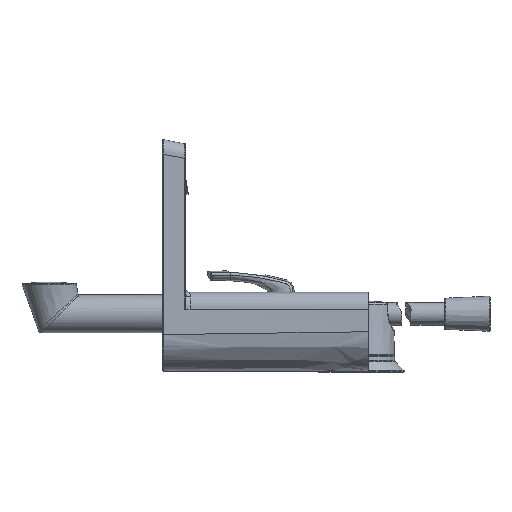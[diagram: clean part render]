
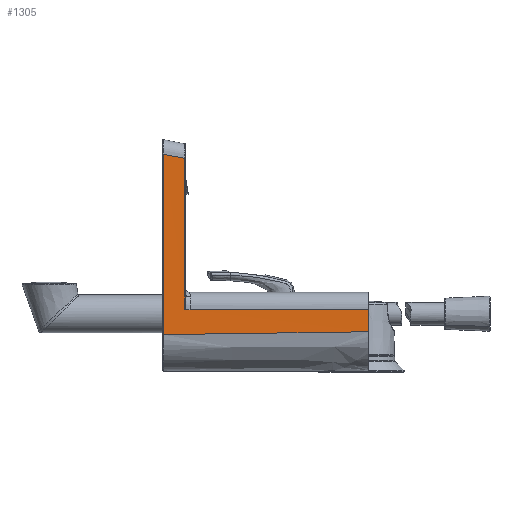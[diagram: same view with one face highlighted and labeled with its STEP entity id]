
A CAD part, left-side view. The second image highlights one B-rep face of the part: STEP entity #1305.
In plain terms, the highlighted free-form (B-spline) face has degree [3, 3] with [6, 6] control points.
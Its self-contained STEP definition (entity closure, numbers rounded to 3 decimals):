
#11 = CARTESIAN_POINT ( 'NONE',  ( -26.29, 15.111, 50.422 ) ) ;
#119 = CARTESIAN_POINT ( 'NONE',  ( -26.625, 0., 100. ) ) ;
#142 = ORIENTED_EDGE ( 'NONE', *, *, #27513, .T. ) ;
#563 = CARTESIAN_POINT ( 'NONE',  ( -26.625, 0., 0. ) ) ;
#1305 = ADVANCED_FACE ( 'NONE', ( #30334 ), #21338, .T. ) ;
#1905 = CARTESIAN_POINT ( 'NONE',  ( -26.625, 0., 16.667 ) ) ;
#2254 = EDGE_CURVE ( 'NONE', #10679, #13609, #12004, .T. ) ;
#2293 = CARTESIAN_POINT ( 'NONE',  ( -26.625, 0., 150. ) ) ;
#2356 = CARTESIAN_POINT ( 'NONE',  ( -24.235, 121.51, 21.622 ) ) ;
#2386 = CARTESIAN_POINT ( 'NONE',  ( -23.43, 120.889, 108.423 ) ) ;
#2494 = CARTESIAN_POINT ( 'NONE',  ( -23.97, 90.667, 142.173 ) ) ;
#2994 = VERTEX_POINT ( 'NONE', #11283 ) ;
#3653 = CARTESIAN_POINT ( 'NONE',  ( -25.006, 90.667, -1.251 ) ) ;
#4167 = CARTESIAN_POINT ( 'NONE',  ( -26.625, 0., 0. ) ) ;
#4503 = CARTESIAN_POINT ( 'NONE',  ( -22.96, 135.513, 117.491 ) ) ;
#4553 = CARTESIAN_POINT ( 'NONE',  ( -23.948, 120.889, 53.378 ) ) ;
#4753 = CARTESIAN_POINT ( 'NONE',  ( -25.621, 45.333, 51.267 ) ) ;
#4836 = VERTEX_POINT ( 'NONE', #15737 ) ;
#4853 = CARTESIAN_POINT ( 'NONE',  ( -26.161, 15.111, 151.684 ) ) ;
#5729 = CARTESIAN_POINT ( 'NONE',  ( -24.306, 121.255, 14.681 ) ) ;
#5846 = CARTESIAN_POINT ( 'NONE',  ( -24.311, 121., 14.681 ) ) ;
#6308 = CARTESIAN_POINT ( 'NONE',  ( -24.369, 117.942, 14.679 ) ) ;
#6526 = CARTESIAN_POINT ( 'NONE',  ( -24.197, 136., -1.876 ) ) ;
#6621 = CARTESIAN_POINT ( 'NONE',  ( -25.751, 45.333, 16.672 ) ) ;
#6975 = CARTESIAN_POINT ( 'NONE',  ( -24.301, 121.51, 14.682 ) ) ;
#7207 = CARTESIAN_POINT ( 'NONE',  ( -22.912, 120.889, 163.469 ) ) ;
#7686 = ORIENTED_EDGE ( 'NONE', *, *, #15040, .F. ) ;
#8125 = ORIENTED_EDGE ( 'NONE', *, *, #12750, .T. ) ;
#8132 = CARTESIAN_POINT ( 'NONE',  ( -24.369, 117.942, 14.679 ) ) ;
#8167 = EDGE_CURVE ( 'NONE', #2994, #16487, #11165, .T. ) ;
#8451 = B_SPLINE_CURVE_WITH_KNOTS ( 'NONE', 3,
 ( #11224, #30152, #22978, #11323 ),
 .UNSPECIFIED., .F., .F.,
 ( 4, 4 ),
 ( 0., 1. ),
 .UNSPECIFIED. ) ;
#8620 = ORIENTED_EDGE ( 'NONE', *, *, #2254, .T. ) ;
#8962 = CARTESIAN_POINT ( 'NONE',  ( -24.294, 120.889, 16.681 ) ) ;
#9188 = EDGE_CURVE ( 'NONE', #4836, #26092, #8451, .T. ) ;
#9664 = CARTESIAN_POINT ( 'NONE',  ( -26.182, 15.111, 134.807 ) ) ;
#9833 = VERTEX_POINT ( 'NONE', #16072 ) ;
#10679 = VERTEX_POINT ( 'NONE', #8132 ) ;
#10915 = CARTESIAN_POINT ( 'NONE',  ( -25.917, 37.049, 14.609 ) ) ;
#11165 = B_SPLINE_CURVE_WITH_KNOTS ( 'NONE', 1,
 ( #29057, #21661 ),
 .UNSPECIFIED., .F., .F.,
 ( 2, 2 ),
 ( 0., 1. ),
 .UNSPECIFIED. ) ;
#11224 = CARTESIAN_POINT ( 'NONE',  ( -24.202, 121.51, 25.093 ) ) ;
#11283 = CARTESIAN_POINT ( 'NONE',  ( -24.206, 135.509, -1.869 ) ) ;
#11323 = CARTESIAN_POINT ( 'NONE',  ( -23.354, 121.513, 114.761 ) ) ;
#11327 = CARTESIAN_POINT ( 'NONE',  ( -26.625, 0., 50. ) ) ;
#11596 = VECTOR ( 'NONE', #16151, 1000. ) ;
#11609 = CARTESIAN_POINT ( 'NONE',  ( -23.085, 120.889, 145.12 ) ) ;
#11837 = CARTESIAN_POINT ( 'NONE',  ( -26.625, 0., 75. ) ) ;
#11914 = CARTESIAN_POINT ( 'NONE',  ( -24.229, 90.667, 106.317 ) ) ;
#12004 = B_SPLINE_CURVE_WITH_KNOTS ( 'NONE', 3,
 ( #27134, #17654, #26810, #5846 ),
 .UNSPECIFIED., .F., .F.,
 ( 4, 4 ),
 ( 0., 1. ),
 .UNSPECIFIED. ) ;
#12750 = EDGE_CURVE ( 'NONE', #9833, #10679, #25543, .T. ) ;
#13097 = LINE ( 'NONE', #27885, #11596 ) ;
#13186 = ORIENTED_EDGE ( 'NONE', *, *, #19366, .T. ) ;
#13609 = VERTEX_POINT ( 'NONE', #28906 ) ;
#13684 = CARTESIAN_POINT ( 'NONE',  ( -24.877, 90.667, 16.677 ) ) ;
#13734 = CARTESIAN_POINT ( 'NONE',  ( -23.223, 126.18, 115.671 ) ) ;
#13981 = CARTESIAN_POINT ( 'NONE',  ( -23.031, 136., 109.476 ) ) ;
#14179 = CARTESIAN_POINT ( 'NONE',  ( -23.614, 136., 53.8 ) ) ;
#14614 = DIRECTION ( 'NONE',  ( 0., 0., 1. ) ) ;
#15040 = EDGE_CURVE ( 'NONE', #16487, #26092, #16825, .T. ) ;
#15303 = ORIENTED_EDGE ( 'NONE', *, *, #8167, .F. ) ;
#15737 = CARTESIAN_POINT ( 'NONE',  ( -24.202, 121.51, 25.093 ) ) ;
#15959 = CARTESIAN_POINT ( 'NONE',  ( -26.355, 15.111, -0.208 ) ) ;
#16072 = CARTESIAN_POINT ( 'NONE',  ( -26.625, 0., 14.573 ) ) ;
#16103 = ORIENTED_EDGE ( 'NONE', *, *, #26973, .F. ) ;
#16151 = DIRECTION ( 'NONE',  ( -0.018, -1., 0.014 ) ) ;
#16348 = CARTESIAN_POINT ( 'NONE',  ( -25.297, 45.333, 137.753 ) ) ;
#16487 = VERTEX_POINT ( 'NONE', #18106 ) ;
#16541 = CARTESIAN_POINT ( 'NONE',  ( -25.427, 45.333, 103.159 ) ) ;
#16825 = B_SPLINE_CURVE_WITH_KNOTS ( 'NONE', 3,
 ( #4503, #23124, #13734, #18275 ),
 .UNSPECIFIED., .F., .F.,
 ( 4, 4 ),
 ( 0., 1. ),
 .UNSPECIFIED. ) ;
#17225 = B_SPLINE_CURVE_WITH_KNOTS ( 'NONE', 3,
 ( #6975, #25806, #2356, #28248 ),
 .UNSPECIFIED., .F., .F.,
 ( 4, 4 ),
 ( 0., 1. ),
 .UNSPECIFIED. ) ;
#17431 = DIRECTION ( 'NONE',  ( -0.019, -1., -0.001 ) ) ;
#17654 = CARTESIAN_POINT ( 'NONE',  ( -24.35, 118.961, 14.68 ) ) ;
#17802 = CARTESIAN_POINT ( 'NONE',  ( -26.625, 0., 14.573 ) ) ;
#18106 = CARTESIAN_POINT ( 'NONE',  ( -22.96, 135.513, 117.491 ) ) ;
#18275 = CARTESIAN_POINT ( 'NONE',  ( -23.354, 121.513, 114.761 ) ) ;
#18320 = CARTESIAN_POINT ( 'NONE',  ( -26.334, 15.111, 16.668 ) ) ;
#18414 = VECTOR ( 'NONE', #17431, 1000. ) ;
#18424 = VERTEX_POINT ( 'NONE', #28764 ) ;
#18906 = CARTESIAN_POINT ( 'NONE',  ( -22.642, 136., 146.593 ) ) ;
#19028 = VERTEX_POINT ( 'NONE', #563 ) ;
#19366 = EDGE_CURVE ( 'NONE', #2994, #19028, #13097, .T. ) ;
#19488 = EDGE_LOOP ( 'NONE', ( #8620, #16103, #20009, #26411, #7686, #15303, #13186, #142, #8125 ) ) ;
#20009 = ORIENTED_EDGE ( 'NONE', *, *, #25119, .T. ) ;
#20598 = CARTESIAN_POINT ( 'NONE',  ( -25.816, 45.333, -0.625 ) ) ;
#20994 = CARTESIAN_POINT ( 'NONE',  ( -22.448, 136., 165.152 ) ) ;
#21194 = CARTESIAN_POINT ( 'NONE',  ( -23.84, 90.667, 160.101 ) ) ;
#21338 = B_SPLINE_SURFACE_WITH_KNOTS ( 'NONE', 3, 3, ( 
 ( #4167, #15959, #20598, #3653, #30062, #6526 ),
 ( #1905, #18320, #6621, #13684, #8962, #25446 ),
 ( #11327, #11, #4753, #28084, #4553, #14179 ),
 ( #119, #25739, #16541, #11914, #2386, #13981 ),
 ( #30455, #9664, #16348, #2494, #11609, #18906 ),
 ( #2293, #4853, #26145, #21194, #7207, #20994 ) ),
 .UNSPECIFIED., .F., .F., .F.,
 ( 4, 1, 1, 4 ),
 ( 4, 1, 1, 4 ),
 ( 0., 0.333, 0.667, 1. ),
 ( 0., 0.333, 0.667, 1. ),
 .UNSPECIFIED. ) ;
#21600 = CARTESIAN_POINT ( 'NONE',  ( -23.354, 121.513, 114.761 ) ) ;
#21661 = CARTESIAN_POINT ( 'NONE',  ( -22.96, 135.513, 117.491 ) ) ;
#21724 = LINE ( 'NONE', #11837, #22853 ) ;
#22853 = VECTOR ( 'NONE', #14614, 1000. ) ;
#22978 = CARTESIAN_POINT ( 'NONE',  ( -23.637, 121.512, 84.871 ) ) ;
#23124 = CARTESIAN_POINT ( 'NONE',  ( -23.092, 130.846, 116.581 ) ) ;
#24709 = LINE ( 'NONE', #5729, #18414 ) ;
#25119 = EDGE_CURVE ( 'NONE', #18424, #4836, #17225, .T. ) ;
#25446 = CARTESIAN_POINT ( 'NONE',  ( -24.002, 136., 16.683 ) ) ;
#25543 = B_SPLINE_CURVE_WITH_KNOTS ( 'NONE', 3,
 ( #17802, #10915, #29635, #6308 ),
 .UNSPECIFIED., .F., .F.,
 ( 4, 4 ),
 ( 0., 1. ),
 .UNSPECIFIED. ) ;
#25739 = CARTESIAN_POINT ( 'NONE',  ( -26.226, 15.111, 101.053 ) ) ;
#25806 = CARTESIAN_POINT ( 'NONE',  ( -24.268, 121.51, 18.152 ) ) ;
#26092 = VERTEX_POINT ( 'NONE', #21600 ) ;
#26145 = CARTESIAN_POINT ( 'NONE',  ( -25.233, 45.333, 155.051 ) ) ;
#26411 = ORIENTED_EDGE ( 'NONE', *, *, #9188, .T. ) ;
#26810 = CARTESIAN_POINT ( 'NONE',  ( -24.33, 119.981, 14.68 ) ) ;
#26973 = EDGE_CURVE ( 'NONE', #18424, #13609, #24709, .T. ) ;
#27134 = CARTESIAN_POINT ( 'NONE',  ( -24.369, 117.942, 14.679 ) ) ;
#27513 = EDGE_CURVE ( 'NONE', #19028, #9833, #21724, .T. ) ;
#27885 = CARTESIAN_POINT ( 'NONE',  ( -25.411, 68., -0.938 ) ) ;
#28084 = CARTESIAN_POINT ( 'NONE',  ( -24.618, 90.667, 52.533 ) ) ;
#28248 = CARTESIAN_POINT ( 'NONE',  ( -24.202, 121.51, 25.093 ) ) ;
#28764 = CARTESIAN_POINT ( 'NONE',  ( -24.301, 121.51, 14.682 ) ) ;
#28906 = CARTESIAN_POINT ( 'NONE',  ( -24.311, 121., 14.681 ) ) ;
#29057 = CARTESIAN_POINT ( 'NONE',  ( -24.206, 135.509, -1.869 ) ) ;
#29635 = CARTESIAN_POINT ( 'NONE',  ( -25.165, 76.363, 14.645 ) ) ;
#30062 = CARTESIAN_POINT ( 'NONE',  ( -24.467, 120.889, -1.668 ) ) ;
#30152 = CARTESIAN_POINT ( 'NONE',  ( -23.92, 121.511, 54.982 ) ) ;
#30334 = FACE_OUTER_BOUND ( 'NONE', #19488, .T. ) ;
#30455 = CARTESIAN_POINT ( 'NONE',  ( -26.625, 0., 133.333 ) ) ;
